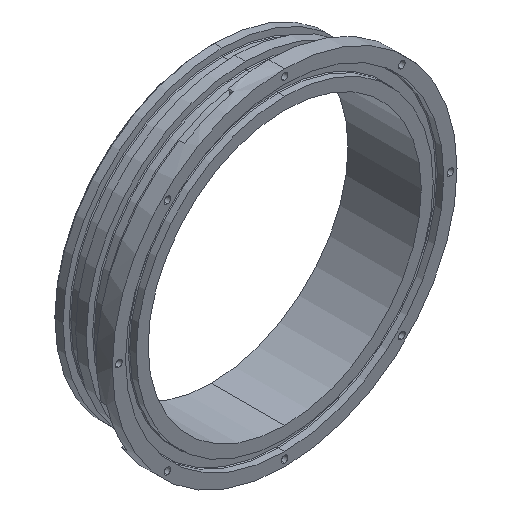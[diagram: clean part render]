
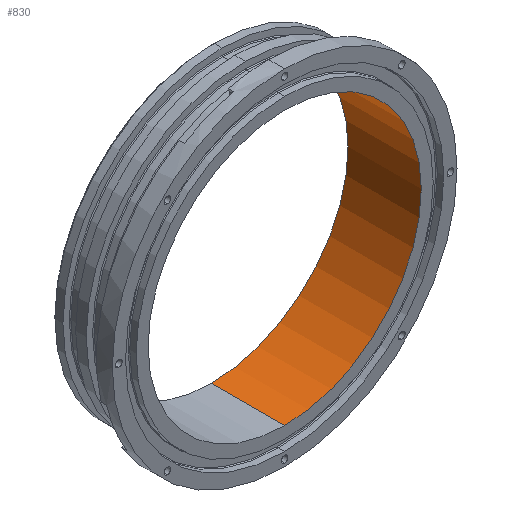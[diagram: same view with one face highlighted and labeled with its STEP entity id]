
A CAD part, isometric view. The second image highlights one B-rep face of the part: STEP entity #830.
In plain terms, the highlighted cylindrical face has radius 51.5 mm (diameter 103 mm), a partial arc.
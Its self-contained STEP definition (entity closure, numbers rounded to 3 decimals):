
#38 = LINE ( 'NONE', #1109, #2360 ) ;
#75 = VECTOR ( 'NONE', #2045, 1000. ) ;
#109 = AXIS2_PLACEMENT_3D ( 'NONE', #2030, #3064, #1426 ) ;
#131 = EDGE_CURVE ( 'NONE', #1389, #2011, #1495, .T. ) ;
#284 = AXIS2_PLACEMENT_3D ( 'NONE', #1040, #820, #294 ) ;
#294 = DIRECTION ( 'NONE',  ( 0., 0., 1. ) ) ;
#434 = AXIS2_PLACEMENT_3D ( 'NONE', #1296, #3173, #2073 ) ;
#514 = EDGE_LOOP ( 'NONE', ( #1931, #1645, #1633, #705 ) ) ;
#705 = ORIENTED_EDGE ( 'NONE', *, *, #131, .T. ) ;
#820 = DIRECTION ( 'NONE',  ( 0., 1., 0. ) ) ;
#830 = ADVANCED_FACE ( 'NONE', ( #2115 ), #2755, .F. ) ;
#1040 = CARTESIAN_POINT ( 'NONE',  ( 0., 27.6, 0. ) ) ;
#1054 = EDGE_CURVE ( 'NONE', #3199, #3047, #1111, .T. ) ;
#1109 = CARTESIAN_POINT ( 'NONE',  ( 0., 41.6, 51.5 ) ) ;
#1111 = CIRCLE ( 'NONE', #284, 51.5 ) ;
#1118 = DIRECTION ( 'NONE',  ( 0., -1., 0. ) ) ;
#1171 = EDGE_CURVE ( 'NONE', #3199, #2011, #38, .T. ) ;
#1221 = CARTESIAN_POINT ( 'NONE',  ( 0., 41.6, -51.5 ) ) ;
#1296 = CARTESIAN_POINT ( 'NONE',  ( 0., 0., 0. ) ) ;
#1333 = CARTESIAN_POINT ( 'NONE',  ( 0., 0., 51.5 ) ) ;
#1378 = CARTESIAN_POINT ( 'NONE',  ( 0., 27.6, 51.5 ) ) ;
#1389 = VERTEX_POINT ( 'NONE', #1481 ) ;
#1426 = DIRECTION ( 'NONE',  ( 0., 0., -1. ) ) ;
#1445 = EDGE_CURVE ( 'NONE', #3047, #1389, #3435, .T. ) ;
#1481 = CARTESIAN_POINT ( 'NONE',  ( 0., 0., -51.5 ) ) ;
#1495 = CIRCLE ( 'NONE', #434, 51.5 ) ;
#1633 = ORIENTED_EDGE ( 'NONE', *, *, #1445, .T. ) ;
#1645 = ORIENTED_EDGE ( 'NONE', *, *, #1054, .T. ) ;
#1931 = ORIENTED_EDGE ( 'NONE', *, *, #1171, .F. ) ;
#2011 = VERTEX_POINT ( 'NONE', #1333 ) ;
#2030 = CARTESIAN_POINT ( 'NONE',  ( 0., 41.6, 0. ) ) ;
#2045 = DIRECTION ( 'NONE',  ( 0., -1., 0. ) ) ;
#2073 = DIRECTION ( 'NONE',  ( 0., 0., -1. ) ) ;
#2115 = FACE_OUTER_BOUND ( 'NONE', #514, .T. ) ;
#2360 = VECTOR ( 'NONE', #1118, 1000. ) ;
#2755 = CYLINDRICAL_SURFACE ( 'NONE', #109, 51.5 ) ;
#2938 = CARTESIAN_POINT ( 'NONE',  ( 0., 27.6, -51.5 ) ) ;
#3047 = VERTEX_POINT ( 'NONE', #2938 ) ;
#3064 = DIRECTION ( 'NONE',  ( 0., -1., 0. ) ) ;
#3173 = DIRECTION ( 'NONE',  ( 0., -1., 0. ) ) ;
#3199 = VERTEX_POINT ( 'NONE', #1378 ) ;
#3435 = LINE ( 'NONE', #1221, #75 ) ;
